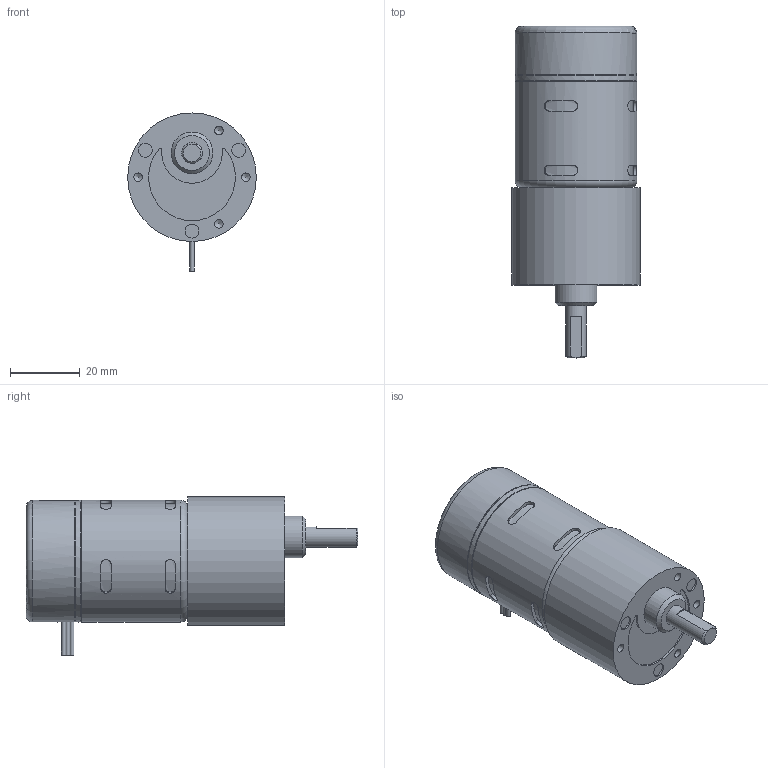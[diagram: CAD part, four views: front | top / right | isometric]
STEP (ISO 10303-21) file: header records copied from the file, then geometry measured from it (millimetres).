
FILE_DESCRIPTION((''),'2;1');
FILE_NAME('C:\Documents and Settings\SSEGAWA\デスクトップ\TP-3546B-KM-4.STP','2013-07-30T15:52:30',('SSEGAWA'),(''),'Autodesk Inventor 2010','Autodesk Inventor 2010','');
FILE_SCHEMA(('CONFIG_CONTROL_DESIGN'));
Length unit declared in the file: millimetre
Products named in the file (1): tp_3546bd_km_4_Shrinkwrap_1
Bounding box: 37 x 95.5 x 45.5 mm (x, y, z)
Volume: 75246.5 mm3; surface area: 11882.4 mm2
Topology: 1 solids, 5 shells, 106 faces, 237 edges, 153 vertices
Faces by surface type: plane 43, cylinder 43, bspline 16, torus 2, cone 2
Full cylindrical faces by diameter (mm): 1.2 x2, 4 x3, 6 x1, 12 x1, 34.6 x1, 35 x3, 37 x1
Entity records: 3466 total; most frequent: CARTESIAN_POINT 1264, DIRECTION 429, ORIENTED_EDGE 376, EDGE_CURVE 188, AXIS2_PLACEMENT_3D 184, EDGE_LOOP 149, VERTEX_POINT 133, STYLED_ITEM 107
